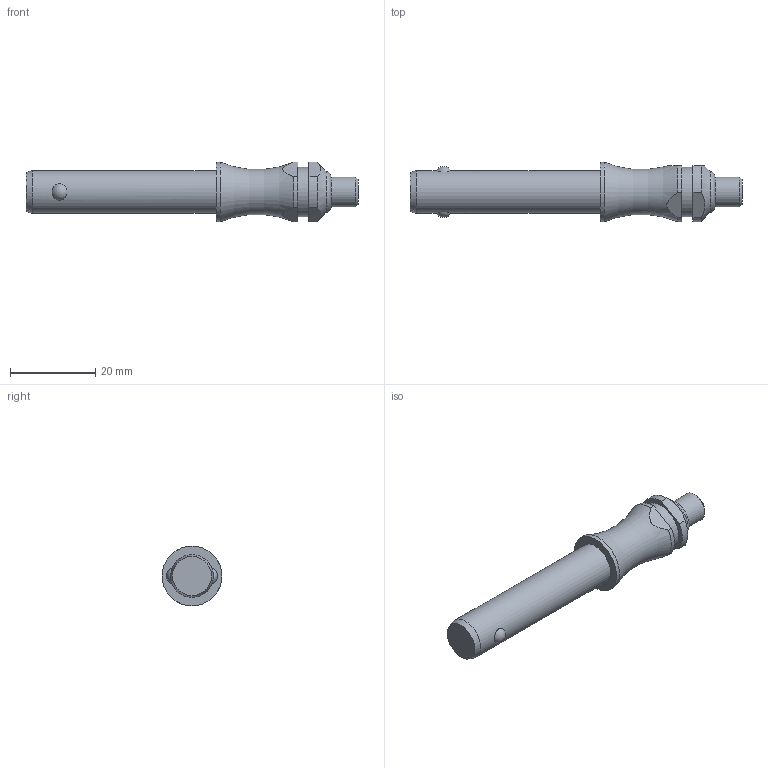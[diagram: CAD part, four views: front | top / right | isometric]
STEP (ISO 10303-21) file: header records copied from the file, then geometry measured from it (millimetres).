
FILE_DESCRIPTION( ( 'STEP AP203' ), '1' );
FILE_NAME( 'C:/Temp/Ganter_Step_05_03_2020/data/3_1/gn113_3/Stainless Steel-Ball lock pin GN 113.3-10-35 (deactivated).stp', '2020-03-12T08:18:33', ( 'License CC BY-ND 4.0' ), ( 'CADENAS' ), ' ', 'PARTsolutions', ' ' );
FILE_SCHEMA( ( 'CONFIG_CONTROL_DESIGN' ) );
Length unit declared in the file: millimetre
Products named in the file (1): _Stainless Steel-Ball lock pin GN 113.3-10-35 (deactivated)
Bounding box: 77.9 x 14 x 14 mm (x, y, z)
Volume: 6728.3 mm3; surface area: 2860.1 mm2
Topology: 1 solids, 1 shells, 28 faces, 60 edges, 39 vertices
Faces by surface type: plane 11, cylinder 10, cone 3, torus 2, sphere 2
Full cylindrical faces by diameter (mm): 7 x1, 10 x1, 11.6 x1, 14 x1
Entity records: 940 total; most frequent: CARTESIAN_POINT 327, DIRECTION 122, ORIENTED_EDGE 98, AXIS2_PLACEMENT_3D 52, EDGE_CURVE 49, EDGE_LOOP 42, VERTEX_POINT 37, FACE_OUTER_BOUND 34
